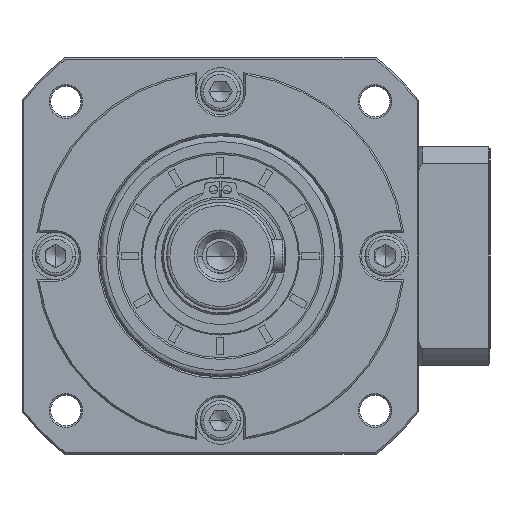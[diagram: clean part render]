
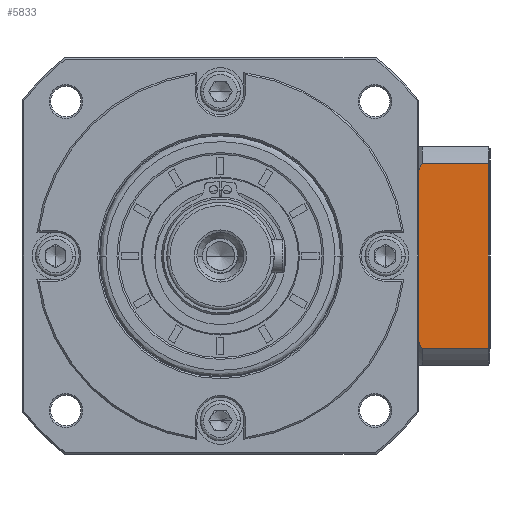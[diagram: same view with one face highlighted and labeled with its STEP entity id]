
A CAD part, left-side view. The second image highlights one B-rep face of the part: STEP entity #5833.
In plain terms, the highlighted planar face has unit normal (-1, 0, 0).
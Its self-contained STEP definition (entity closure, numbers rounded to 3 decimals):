
#2882 = CARTESIAN_POINT ( 'NONE',  ( -20.633, -71.057, -107.56 ) ) ;
#5833 = ADVANCED_FACE ( 'NONE', ( #47571 ), #95121, .F. ) ;
#6255 = VECTOR ( 'NONE', #11536, 1000. ) ;
#9257 = CARTESIAN_POINT ( 'NONE',  ( -20.633, -50.528, -165.163 ) ) ;
#9962 = EDGE_CURVE ( 'NONE', #105979, #84483, #153653, .T. ) ;
#10521 = LINE ( 'NONE', #146431, #6255 ) ;
#11536 = DIRECTION ( 'NONE',  ( 0., 0., -1. ) ) ;
#12159 = EDGE_CURVE ( 'NONE', #40362, #68250, #59463, .T. ) ;
#17324 = CARTESIAN_POINT ( 'NONE',  ( -20.633, -72.528, -160.049 ) ) ;
#21192 = VERTEX_POINT ( 'NONE', #63048 ) ;
#28485 = CARTESIAN_POINT ( 'NONE',  ( -20.633, -92.228, -105.277 ) ) ;
#30543 = EDGE_CURVE ( 'NONE', #158233, #21192, #173941, .T. ) ;
#30852 = CARTESIAN_POINT ( 'NONE',  ( -20.633, -69.664, -155.44 ) ) ;
#36213 = CARTESIAN_POINT ( 'NONE',  ( -20.633, -65.028, -145.653 ) ) ;
#40362 = VERTEX_POINT ( 'NONE', #36213 ) ;
#42943 = CARTESIAN_POINT ( 'NONE',  ( -20.633, -65.028, -119.672 ) ) ;
#44350 = CARTESIAN_POINT ( 'NONE',  ( -20.633, -65.977, -148.209 ) ) ;
#47571 = FACE_OUTER_BOUND ( 'NONE', #69387, .T. ) ;
#58642 = LINE ( 'NONE', #69675, #162003 ) ;
#59411 = EDGE_CURVE ( 'NONE', #68250, #158233, #89472, .T. ) ;
#59463 = LINE ( 'NONE', #86588, #91122 ) ;
#62635 = EDGE_CURVE ( 'NONE', #84483, #40362, #128134, .T. ) ;
#62800 = ORIENTED_EDGE ( 'NONE', *, *, #12159, .F. ) ;
#63048 = CARTESIAN_POINT ( 'NONE',  ( -20.633, -65.028, -119.672 ) ) ;
#68250 = VERTEX_POINT ( 'NONE', #143492 ) ;
#69387 = EDGE_LOOP ( 'NONE', ( #73943, #74173, #151787, #125834, #152087, #62800, #107060, #91889 ) ) ;
#69675 = CARTESIAN_POINT ( 'NONE',  ( -20.633, -92.728, -105.277 ) ) ;
#70579 = VECTOR ( 'NONE', #102902, 1000. ) ;
#70968 = CARTESIAN_POINT ( 'NONE',  ( -20.633, -92.728, -165.163 ) ) ;
#73943 = ORIENTED_EDGE ( 'NONE', *, *, #119562, .F. ) ;
#74173 = ORIENTED_EDGE ( 'NONE', *, *, #106599, .F. ) ;
#76292 = CARTESIAN_POINT ( 'NONE',  ( -20.633, -65.028, -119.672 ) ) ;
#76941 = CARTESIAN_POINT ( 'NONE',  ( -20.633, -72.528, -160.049 ) ) ;
#83652 = CARTESIAN_POINT ( 'NONE',  ( -20.633, -69.664, -109.885 ) ) ;
#84483 = VERTEX_POINT ( 'NONE', #76941 ) ;
#84519 = DIRECTION ( 'NONE',  ( 0., 1., 0. ) ) ;
#86588 = CARTESIAN_POINT ( 'NONE',  ( -20.633, -65.028, -145.653 ) ) ;
#89472 = LINE ( 'NONE', #9257, #121058 ) ;
#91122 = VECTOR ( 'NONE', #113066, 1000. ) ;
#91195 = EDGE_CURVE ( 'NONE', #21192, #168336, #109665, .T. ) ;
#91889 = ORIENTED_EDGE ( 'NONE', *, *, #9962, .F. ) ;
#95121 = PLANE ( 'NONE',  #98576 ) ;
#97218 = CARTESIAN_POINT ( 'NONE',  ( -20.633, -72.528, -105.277 ) ) ;
#98055 = CARTESIAN_POINT ( 'NONE',  ( -20.633, -71.057, -157.765 ) ) ;
#98576 = AXIS2_PLACEMENT_3D ( 'NONE', #70968, #165258, #84519 ) ;
#102902 = DIRECTION ( 'NONE',  ( 0., -1., 0. ) ) ;
#103627 = DIRECTION ( 'NONE',  ( 0., 0., 1. ) ) ;
#105979 = VERTEX_POINT ( 'NONE', #135273 ) ;
#106599 = EDGE_CURVE ( 'NONE', #168336, #124170, #58642, .T. ) ;
#107060 = ORIENTED_EDGE ( 'NONE', *, *, #62635, .F. ) ;
#109665 = B_SPLINE_CURVE_WITH_KNOTS ( 'NONE', 3,
 ( #42943, #123174, #164422, #83652, #2882, #97218 ),
 .UNSPECIFIED., .F., .F.,
 ( 4, 2, 4 ),
 ( 0., 0.008, 0.016 ),
 .UNSPECIFIED. ) ;
#113066 = DIRECTION ( 'NONE',  ( 0., 1., 0. ) ) ;
#119562 = EDGE_CURVE ( 'NONE', #124170, #105979, #10521, .T. ) ;
#121058 = VECTOR ( 'NONE', #103627, 1000. ) ;
#123174 = CARTESIAN_POINT ( 'NONE',  ( -20.633, -65.977, -117.116 ) ) ;
#124170 = VERTEX_POINT ( 'NONE', #28485 ) ;
#125128 = CARTESIAN_POINT ( 'NONE',  ( -20.633, -67.125, -150.662 ) ) ;
#125834 = ORIENTED_EDGE ( 'NONE', *, *, #30543, .F. ) ;
#128134 = B_SPLINE_CURVE_WITH_KNOTS ( 'NONE', 3,
 ( #17324, #98055, #30852, #125128, #44350, #138648 ),
 .UNSPECIFIED., .F., .F.,
 ( 4, 2, 4 ),
 ( 0., 0.008, 0.016 ),
 .UNSPECIFIED. ) ;
#135273 = CARTESIAN_POINT ( 'NONE',  ( -20.633, -92.228, -160.049 ) ) ;
#138648 = CARTESIAN_POINT ( 'NONE',  ( -20.633, -65.028, -145.653 ) ) ;
#143492 = CARTESIAN_POINT ( 'NONE',  ( -20.633, -50.528, -145.653 ) ) ;
#145187 = VECTOR ( 'NONE', #172733, 1000. ) ;
#146431 = CARTESIAN_POINT ( 'NONE',  ( -20.633, -92.228, -165.163 ) ) ;
#151787 = ORIENTED_EDGE ( 'NONE', *, *, #91195, .F. ) ;
#152087 = ORIENTED_EDGE ( 'NONE', *, *, #59411, .F. ) ;
#153653 = LINE ( 'NONE', #159152, #145187 ) ;
#156463 = CARTESIAN_POINT ( 'NONE',  ( -20.633, -72.528, -105.277 ) ) ;
#158233 = VERTEX_POINT ( 'NONE', #159600 ) ;
#159152 = CARTESIAN_POINT ( 'NONE',  ( -20.633, -92.728, -160.049 ) ) ;
#159600 = CARTESIAN_POINT ( 'NONE',  ( -20.633, -50.528, -119.672 ) ) ;
#162003 = VECTOR ( 'NONE', #164005, 1000. ) ;
#164005 = DIRECTION ( 'NONE',  ( 0., -1., 0. ) ) ;
#164422 = CARTESIAN_POINT ( 'NONE',  ( -20.633, -67.125, -114.663 ) ) ;
#165258 = DIRECTION ( 'NONE',  ( 1., 0., 0. ) ) ;
#168336 = VERTEX_POINT ( 'NONE', #156463 ) ;
#172733 = DIRECTION ( 'NONE',  ( 0., 1., 0. ) ) ;
#173941 = LINE ( 'NONE', #76292, #70579 ) ;
